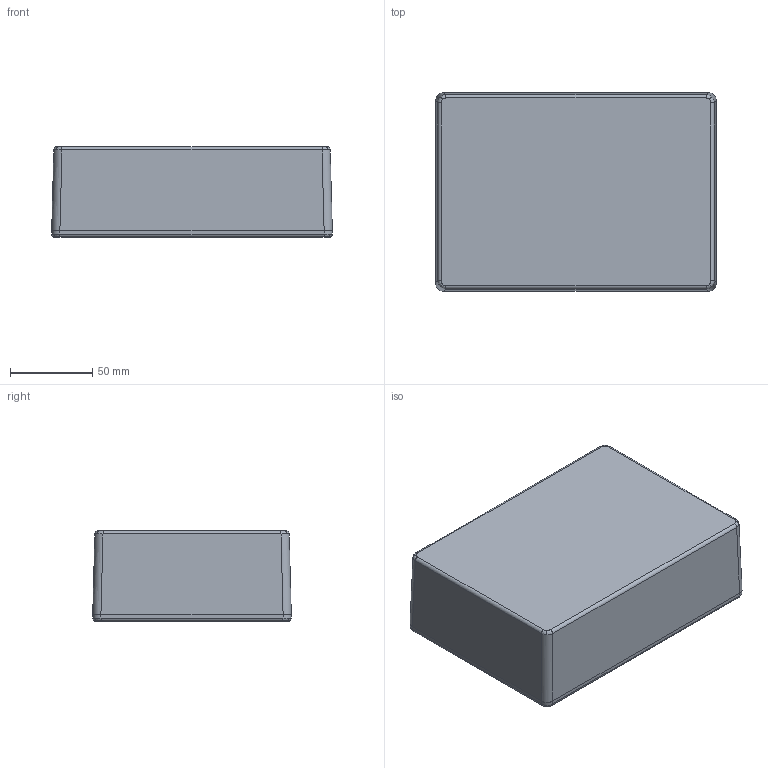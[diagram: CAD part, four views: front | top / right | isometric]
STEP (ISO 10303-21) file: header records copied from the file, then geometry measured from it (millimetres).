
FILE_DESCRIPTION(/* description */ (''),/* implementation_level */ '2;1');
FILE_NAME(/* name */ 'E:\Eng\Customer Service\Drawings\new 1550\STEP\1550E\1550E.iam.stp',/* time_stamp */ '2014-10-29T10:13:48-04:00',/* author */ ('tcook'),/* organization */ (''),/* preprocessor_version */ 'ST-DEVELOPER v15.2',/* originating_system */ 'Autodesk Inventor 2014',/* authorisation */ '');
FILE_SCHEMA (('AUTOMOTIVE_DESIGN { 1 0 10303 214 3 1 1 }'));
Products named in the file (4): 1550E BOX; 1550E-F LID; SC1550 (screw M3.5-0.6X 12mm FH); 1550E
Bounding box: 171 x 121 x 55.1 mm (x, y, z)
Volume: 153807.7 mm3; surface area: 144221.2 mm2
Topology: 8 solids, 8 shells, 1043 faces, 2780 edges, 1802 vertices
Faces by surface type: plane 413, bspline 370, cone 100, cylinder 98, torus 62
Full cylindrical faces by diameter (mm): 3 x6, 3.43 x6, 4.1 x6
Entity records: 44383 total; most frequent: CARTESIAN_POINT 24014, ORIENTED_EDGE 4766, DIRECTION 3208, EDGE_CURVE 2383, VERTEX_POINT 1565, LINE 1162, VECTOR 1162, EDGE_LOOP 1024
